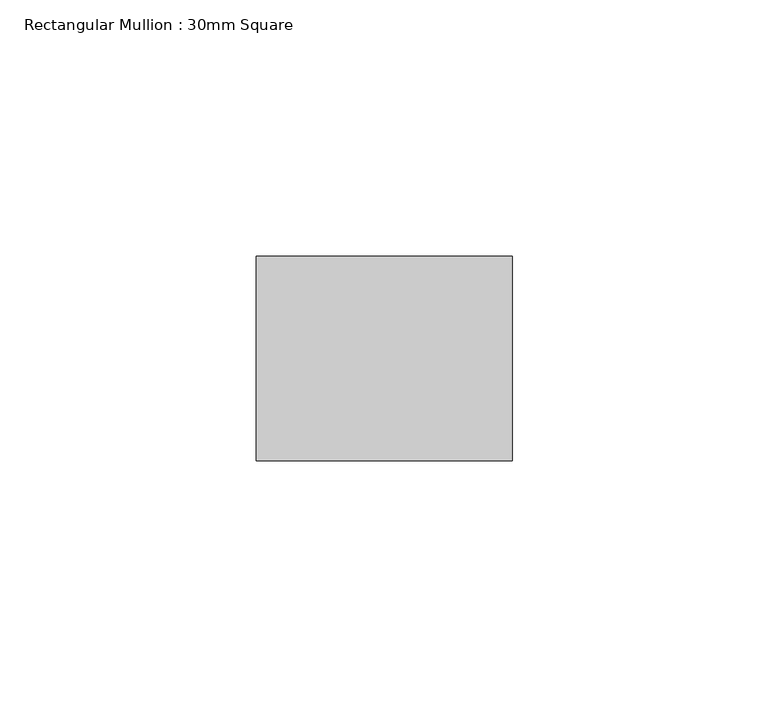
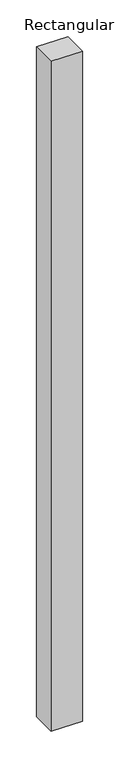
"""IFC4 building model written with IfcOpenShell, lengths in millimetres: member geometry, Rectangular Mullion : 30mm Square."""

from ifc_helpers import new_model, si_unit, frame, origin, place, context, project, spatial, polyline, outline, extrude, source, transform, mapped, element, save


def rectangular_mullion_30mm_square_b8c613d2(model_context):
    return source(origin(), model_context, "Body", "SweptSolid", [
        extrude(outline(polyline([(0.0, 20.0), (0.0, -20.0), (-50.0, -20.0), (-50.0, 20.0), (0.0, 20.0)])), frame((0.0, 0.0, -1120.0), z_axis=(0.0, 0.0, 1.0), x_axis=(1.0, 0.0, 0.0)), (0.0, 0.0, 1.0), 1120.0),
    ])


if __name__ == "__main__":
    model = new_model("IFC4")
    model_context = context("Model", 3, world=origin())
    ifc_project = project(units=[si_unit("LENGTHUNIT", "METRE", prefix="MILLI")], contexts=[model_context])
    site = spatial("IfcSite", under=ifc_project)
    building = spatial("IfcBuilding", under=site)
    placement = place(None, origin())
    rectangular_mullion_30mm_square_shape = rectangular_mullion_30mm_square_b8c613d2(model_context)
    element("IfcMember", 1, ObjectType="Rectangular Mullion : 30mm Square", at=placement, inside=building, context=model_context, shape_type="MappedRepresentation", body=[
        mapped(rectangular_mullion_30mm_square_shape, transform((0.0, 0.0, 0.0), x_axis=(1.0, 0.0, 0.0), y_axis=(0.0, 1.0, 0.0), z_axis=(0.0, 0.0, 1.0))),
    ])
    save(model, "model.ifc")
